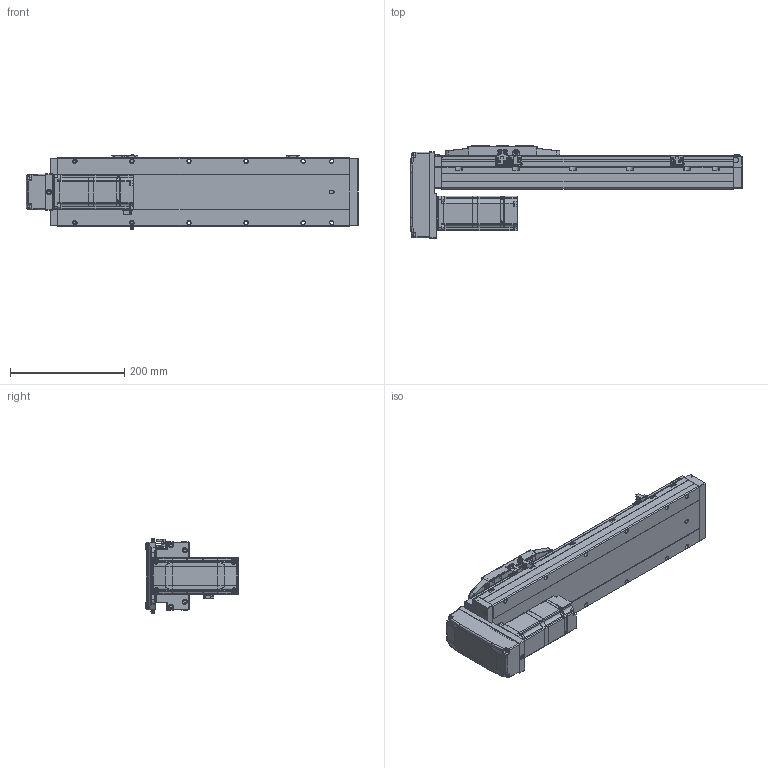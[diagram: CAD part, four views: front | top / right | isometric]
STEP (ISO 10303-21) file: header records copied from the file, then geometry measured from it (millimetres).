
FILE_DESCRIPTION (( 'STEP AP214' ), '1' );
FILE_NAME ('CTH12-L10-S300-BM-C40（简）.STEP', '2023-02-04T06:51:03', ( '' ), ( '' ), 'SwSTEP 2.0', 'SolidWorks 2018', '' );
FILE_SCHEMA (( 'AUTOMOTIVE_DESIGN' ));
Length unit declared in the file: millimetre
Products named in the file (25): CTH12底座-L511简（300行程）; 嫖萇羲壽郪磁1; BM-C40; CTH8耜蚾蟀諉啣ㄗ潠ㄘ; CTH400W垫板（3个厚）; 湮賑怢  裔赽-1(CTH12)賑怢; CTH12-BL_body_4; CTH400W假蚾啣; 内六角圆柱头螺钉M5装饰螺钉; hex nuts, style 1-grades ab gb_GB_FASTENER_NUT_SNAB1 M3-N; CTH嫖萇羲壽假蚾啣; AC60_Valor predeterminado; CTH12賑怢ㄗ潠ㄘ; CTH12賑怢郪磁; CTH12覜茼え; PM-Y45; 内六角圆柱头螺钉M3; 内六角圆柱头螺钉M3-2; CTH12; CTH12-L10-S300-BM-C40（简）; 内六角圆柱头螺钉M3-1; CTH12_body_3; CTH12-BM-02; 蚐郲; 嫖萇羲壽郪磁2
Assembly tree (45 placements, depth 4):
  CTH12-L10-S300-BM-C40（简）
    CTH12底座-L511简（300行程）
    蚐郲  x2
    CTH12_body_3
    CTH12-BL_body_4
    CTH12賑怢郪磁
      CTH12
        湮賑怢  裔赽-1(CTH12)賑怢
        CTH12賑怢ㄗ潠ㄘ
    CTH12覜茼え
    嫖萇羲壽郪磁1  x2
      CTH嫖萇羲壽假蚾啣
      PM-Y45
      内六角圆柱头螺钉M3-2
      内六角圆柱头螺钉M3-1
      hex nuts, style 1-grades ab gb_GB_FASTENER_NUT_SNAB1 M3-N
    嫖萇羲壽郪磁2
      CTH嫖萇羲壽假蚾啣
      PM-Y45
      内六角圆柱头螺钉M3-1  x2
      内六角圆柱头螺钉M3-2  x2
      hex nuts, style 1-grades ab gb_GB_FASTENER_NUT_SNAB1 M3-N  x2
    BM-C40
      CTH12-BM-02
      CTH8耜蚾蟀諉啣ㄗ潠ㄘ
    CTH400W垫板（3个厚）
    AC60_Valor predeterminado
    内六角圆柱头螺钉M3  x6
    内六角圆柱头螺钉M5装饰螺钉  x4
    CTH400W假蚾啣
Bounding box: 581.5 x 162.5 x 131.52 mm (x, y, z)
Volume: 4186856.7 mm3; surface area: 492803.6 mm2
Topology: 47 solids, 48 shells, 2679 faces, 6781 edges, 4321 vertices
Faces by surface type: plane 1454, cylinder 802, cone 267, bspline 104, torus 52
Entity records: 72681 total; most frequent: CARTESIAN_POINT 16805, ORIENTED_EDGE 10742, DIRECTION 10672, EDGE_CURVE 5371, AXIS2_PLACEMENT_3D 3619, VECTOR 3434, LINE 3434, VERTEX_POINT 3425
